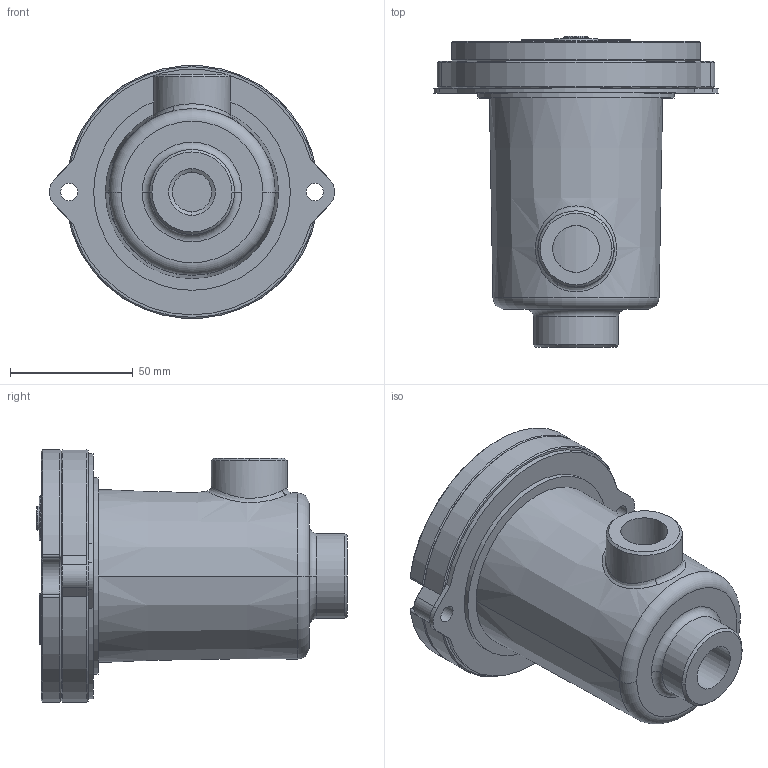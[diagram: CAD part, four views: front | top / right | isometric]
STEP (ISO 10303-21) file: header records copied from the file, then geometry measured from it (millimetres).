
FILE_DESCRIPTION(('FreeCAD Model'),'2;1');
FILE_NAME('Z:/RP Tech/Disegni/Archivio Disegni/18-HOUSING/SFR30.step', '2020-11-27T10:41:44',('Passoni C.'),('RP Tech s.r.l.'), 'Open CASCADE STEP processor 7.3','FreeCAD','Unknown');
FILE_SCHEMA(('AUTOMOTIVE_DESIGN { 1 0 10303 214 1 1 1 1 }'));
Length unit declared in the file: millimetre
Products named in the file (1): Fusion
Bounding box: 115.94 x 126.5 x 102.65 mm (x, y, z)
Volume: 222080.4 mm3; surface area: 99472.9 mm2
Topology: 2 solids, 18 shells, 833 faces, 1883 edges, 1094 vertices
Faces by surface type: plane 302, cylinder 196, torus 167, cone 77, sphere 52, bspline 39
Full cylindrical faces by diameter (mm): 4.2 x5, 5 x5, 5.5 x5, 7 x2, 8.5 x5, 8.8 x1, 9.5 x5, 9.85 x1, 16 x1, 19 x2, 24.5 x1, 31 x1, 34.6 x2, 54.4 x1, 64.5 x1, 80 x1
Entity records: 64818 total; most frequent: CARTESIAN_POINT 21088, DIRECTION 7388, LINE 3728, VECTOR 3728, ORIENTED_EDGE 3716, PCURVE 3716, DEFINITIONAL_REPRESENTATION 3716, EDGE_CURVE 1858
